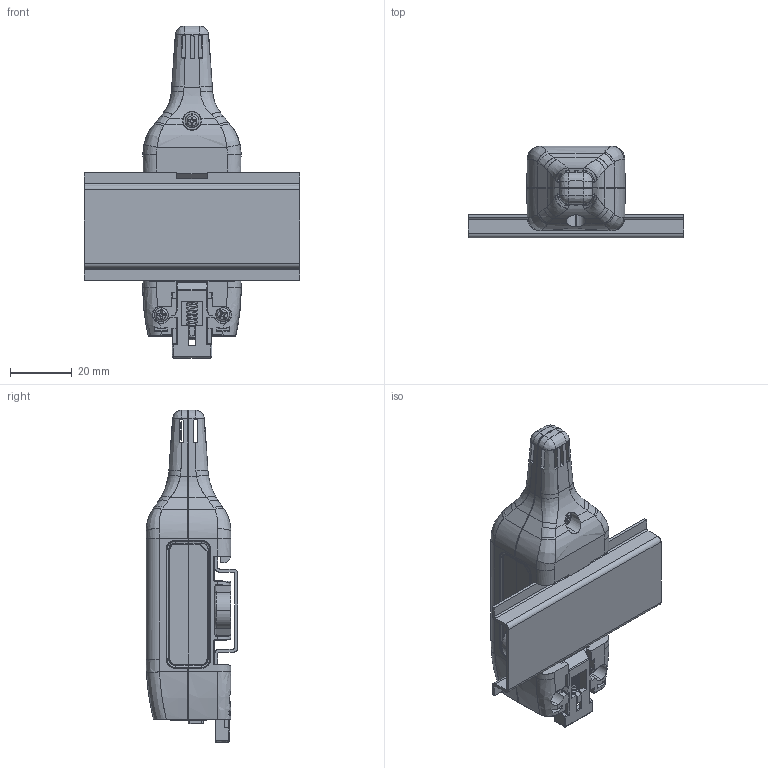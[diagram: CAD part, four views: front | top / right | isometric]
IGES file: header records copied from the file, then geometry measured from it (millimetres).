
Start section: SolidWorks IGES file using analytic representation for surfaces
Global section: file name: D:\201028 弥焊陛措府 夸没荤亲\Accura-TSEN Ass'y_20201028.IGS; native system: SolidWorks 2020; preprocessor: SolidWorks 2020; author: HP; date: 201102.150531; units: millimetre
Bounding box: 70 x 29.8 x 107.84 mm (x, y, z)
Surface area: 46994.9 mm2 (no closed solid volume)
Topology: 0 solids, 0 shells, 2548 faces, 21380 edges, 21344 vertices
Faces by surface type: bspline 1993, revolution 555
